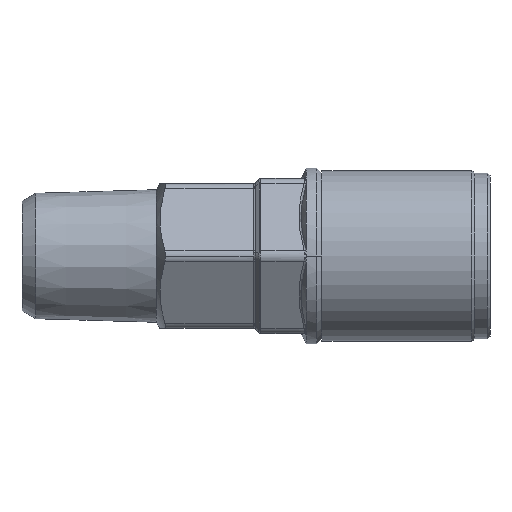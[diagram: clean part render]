
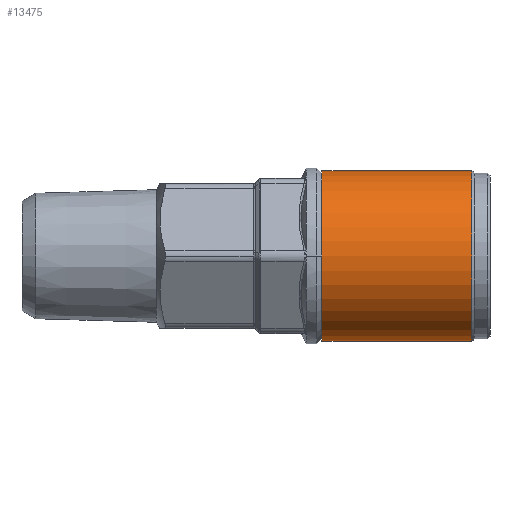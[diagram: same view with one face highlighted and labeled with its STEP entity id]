
A CAD part, front view. The second image highlights one B-rep face of the part: STEP entity #13475.
In plain terms, the highlighted cylindrical face has radius 8.25 mm (diameter 16.5 mm), a partial arc.
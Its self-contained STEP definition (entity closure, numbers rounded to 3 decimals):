
#591 = DIRECTION ( 'NONE',  ( -1., 0., 0. ) ) ;
#712 = VERTEX_POINT ( 'NONE', #17439 ) ;
#1856 = DIRECTION ( 'NONE',  ( 0., 0., -1. ) ) ;
#2051 = VERTEX_POINT ( 'NONE', #6153 ) ;
#2535 = VECTOR ( 'NONE', #591, 1000. ) ;
#3108 = VECTOR ( 'NONE', #7319, 1000. ) ;
#3678 = ORIENTED_EDGE ( 'NONE', *, *, #20332, .T. ) ;
#3704 = LINE ( 'NONE', #5640, #3108 ) ;
#4504 = EDGE_LOOP ( 'NONE', ( #6027, #3678, #18888, #10735 ) ) ;
#4735 = CARTESIAN_POINT ( 'NONE',  ( 8.93, 0., 0. ) ) ;
#5640 = CARTESIAN_POINT ( 'NONE',  ( 8.93, 0., -8.25 ) ) ;
#6027 = ORIENTED_EDGE ( 'NONE', *, *, #13618, .T. ) ;
#6087 = CARTESIAN_POINT ( 'NONE',  ( 28.68, 0., 8.25 ) ) ;
#6153 = CARTESIAN_POINT ( 'NONE',  ( 14.18, 0., -8.25 ) ) ;
#6636 = DIRECTION ( 'NONE',  ( 0., 0., -1. ) ) ;
#7319 = DIRECTION ( 'NONE',  ( -1., 0., 0. ) ) ;
#8621 = CIRCLE ( 'NONE', #19097, 8.25 ) ;
#8756 = EDGE_CURVE ( 'NONE', #14568, #2051, #3704, .T. ) ;
#8846 = DIRECTION ( 'NONE',  ( -1., 0., 0. ) ) ;
#10405 = CARTESIAN_POINT ( 'NONE',  ( 28.68, 0., -8.25 ) ) ;
#10735 = ORIENTED_EDGE ( 'NONE', *, *, #8756, .F. ) ;
#12144 = CIRCLE ( 'NONE', #17769, 8.25 ) ;
#12555 = DIRECTION ( 'NONE',  ( -1., 0., 0. ) ) ;
#13015 = CYLINDRICAL_SURFACE ( 'NONE', #20693, 8.25 ) ;
#13229 = EDGE_CURVE ( 'NONE', #2051, #712, #8621, .T. ) ;
#13475 = ADVANCED_FACE ( 'NONE', ( #19506 ), #13015, .T. ) ;
#13618 = EDGE_CURVE ( 'NONE', #14568, #15642, #12144, .T. ) ;
#14568 = VERTEX_POINT ( 'NONE', #10405 ) ;
#15064 = CARTESIAN_POINT ( 'NONE',  ( 8.93, 0., 8.25 ) ) ;
#15642 = VERTEX_POINT ( 'NONE', #6087 ) ;
#17439 = CARTESIAN_POINT ( 'NONE',  ( 14.18, 0., 8.25 ) ) ;
#17769 = AXIS2_PLACEMENT_3D ( 'NONE', #19574, #8846, #21458 ) ;
#18888 = ORIENTED_EDGE ( 'NONE', *, *, #13229, .F. ) ;
#19097 = AXIS2_PLACEMENT_3D ( 'NONE', #23481, #12555, #1856 ) ;
#19506 = FACE_OUTER_BOUND ( 'NONE', #4504, .T. ) ;
#19574 = CARTESIAN_POINT ( 'NONE',  ( 28.68, 0., 0. ) ) ;
#20332 = EDGE_CURVE ( 'NONE', #15642, #712, #21138, .T. ) ;
#20693 = AXIS2_PLACEMENT_3D ( 'NONE', #4735, #20881, #6636 ) ;
#20881 = DIRECTION ( 'NONE',  ( -1., 0., 0. ) ) ;
#21138 = LINE ( 'NONE', #15064, #2535 ) ;
#21458 = DIRECTION ( 'NONE',  ( 0., 0., -1. ) ) ;
#23481 = CARTESIAN_POINT ( 'NONE',  ( 14.18, 0., 0. ) ) ;
